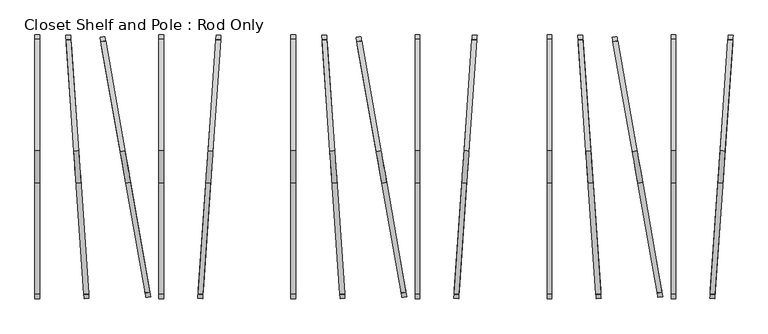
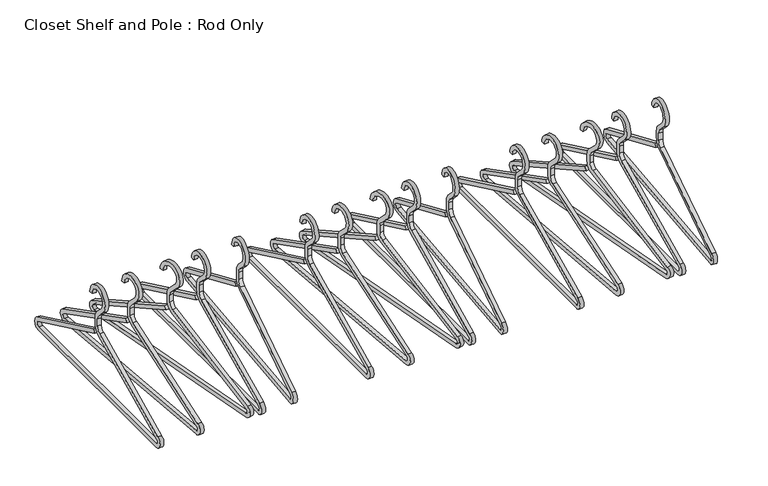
"""IFC4 building model written with IfcOpenShell, lengths in millimetres: furniture geometry, Closet Shelf and Pole : Rod Only."""

from ifc_helpers import new_model, si_unit, point, frame, frame_2d, origin, place, context, project, spatial, polyline, circle_curve, trimmed, segment, composite_curve, outline, extrude, source, transform, mapped, element, save


def closet_shelf_and_pole_rod_only_25dd0cd0(model_context):
    return source(origin(), model_context, "Body", "SweptSolid", [
        extrude(outline(composite_curve([segment(polyline([(0.0, -7.62), (0.0, 0.0), (209.55, 0.0)]), True, "CONTINUOUS"), segment(trimmed(circle_curve(frame_2d((209.55, -12.7)), 12.7), [point((209.55, 0.0))], [point((215.0168758, -24.1631265))], False, "CARTESIAN"), True, "CONTINUOUS"), segment(polyline([(215.0168758, -24.1631265), (-140.3400452, -193.6362767)]), True, "CONTINUOUS"), segment(trimmed(circle_curve(frame_2d((-145.806921, -182.1731502)), 12.7), [point((-140.3400452, -193.6362767))], [point((-155.6758169, -174.179722))], False, "CARTESIAN"), True, "CONTINUOUS"), segment(polyline([(-155.6758169, -174.179722), (-19.6406824, -6.2271797)]), True, "CONTINUOUS"), segment(trimmed(circle_curve(frame_2d((-29.5095783, 1.7662485)), 12.7), [point((-19.6406824, -6.2271797))], [point((-18.0464519, 7.2331242))], True, "CARTESIAN"), True, "CONTINUOUS"), segment(polyline([(-18.0464519, 7.2331242), (-24.2041701, 20.1448321)]), True, "CONTINUOUS"), segment(trimmed(circle_curve(frame_2d((-35.6672966, 14.6779563)), 12.7), [point((-24.2041701, 20.1448321))], [point((-31.4273071, 26.6492757))], True, "CARTESIAN"), True, "CONTINUOUS"), segment(polyline([(-31.4273071, 26.6492757), (-50.4112631, 33.3729936)]), True, "CONTINUOUS"), segment(trimmed(circle_curve(frame_2d((-41.9312841, 57.3156324)), 25.4), [point((-50.4112631, 33.3729936))], [point((-19.005031, 68.2493841))], False, "CARTESIAN"), True, "CONTINUOUS"), segment(polyline([(-19.005031, 68.2493841), (-25.882907, 64.9692586)]), True, "CONTINUOUS"), segment(trimmed(circle_curve(frame_2d((-41.9312841, 57.3156324)), 17.78), [point((-25.882907, 64.9692586))], [point((-47.8672693, 40.5557852))], True, "CARTESIAN"), True, "CONTINUOUS"), segment(polyline([(-47.8672693, 40.5557852), (-28.8833134, 33.8320674)]), True, "CONTINUOUS"), segment(trimmed(circle_curve(frame_2d((-35.6672966, 14.6779563)), 20.32), [point((-28.8833134, 33.8320674))], [point((-17.3262942, 23.4249576))], False, "CARTESIAN"), True, "CONTINUOUS"), segment(polyline([(-17.3262942, 23.4249576), (-11.1685759, 10.5132497)]), True, "CONTINUOUS"), segment(trimmed(circle_curve(frame_2d((-29.5095783, 1.7662485)), 20.32), [point((-11.1685759, 10.5132497))], [point((-13.7193448, -11.0232366))], False, "CARTESIAN"), True, "CONTINUOUS"), segment(polyline([(-13.7193448, -11.0232366), (-149.7544794, -178.9757789)]), True, "CONTINUOUS"), segment(trimmed(circle_curve(frame_2d((-145.806921, -182.1731502)), 5.08), [point((-149.7544794, -178.9757789))], [point((-143.6201707, -186.7584008))], True, "CARTESIAN"), True, "CONTINUOUS"), segment(polyline([(-143.6201707, -186.7584008), (211.7367503, -17.2852506)]), True, "CONTINUOUS"), segment(trimmed(circle_curve(frame_2d((209.55, -12.7)), 5.08), [point((211.7367503, -17.2852506))], [point((209.55, -7.62))], True, "CARTESIAN"), True, "CONTINUOUS"), segment(polyline([(209.55, -7.62), (0.0, -7.62)]), True, "CONTINUOUS")], self_intersect=False)), frame((1822.7600176, -241.686473, 1314.5165774), z_axis=(0.9848077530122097, 0.1736481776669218, 0.0), x_axis=(-0.15673630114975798, 0.8888957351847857, -0.4304626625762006)), (0.0, 0.0, 1.0), 7.62),
        extrude(outline(composite_curve([segment(polyline([(0.0, -7.62), (0.0, 0.0), (209.55, 0.0)]), True, "CONTINUOUS"), segment(trimmed(circle_curve(frame_2d((209.55, 5.08)), 5.08), [point((209.55, 0.0))], [point((211.7367503, 9.6652506))], True, "CARTESIAN"), True, "CONTINUOUS"), segment(polyline([(211.7367503, 9.6652506), (-143.6201708, 179.1384008)]), True, "CONTINUOUS"), segment(trimmed(circle_curve(frame_2d((-145.8069211, 174.5531502)), 5.08), [point((-143.6201708, 179.1384008))], [point((-149.7544794, 171.355779))], True, "CARTESIAN"), True, "CONTINUOUS"), segment(polyline([(-149.7544794, 171.355779), (-13.7193449, 3.4032366)]), True, "CONTINUOUS"), segment(trimmed(circle_curve(frame_2d((-29.5095783, -9.3862485)), 20.32), [point((-13.7193449, 3.4032366))], [point((-11.1685759, -18.1332498))], False, "CARTESIAN"), True, "CONTINUOUS"), segment(polyline([(-11.1685759, -18.1332498), (-17.3262942, -31.0449576)]), True, "CONTINUOUS"), segment(trimmed(circle_curve(frame_2d((-35.6672966, -22.2979563)), 20.32), [point((-17.3262942, -31.0449576))], [point((-28.8833133, -41.4520675))], False, "CARTESIAN"), True, "CONTINUOUS"), segment(polyline([(-28.8833133, -41.4520675), (-47.8672693, -48.1757852)]), True, "CONTINUOUS"), segment(trimmed(circle_curve(frame_2d((-41.931284, -64.9356325)), 17.78), [point((-47.8672693, -48.1757852))], [point((-25.882907, -72.5892586))], True, "CARTESIAN"), True, "CONTINUOUS"), segment(polyline([(-25.882907, -72.5892586), (-19.0050311, -75.8693841)]), True, "CONTINUOUS"), segment(trimmed(circle_curve(frame_2d((-41.931284, -64.9356325)), 25.4), [point((-19.0050311, -75.8693841))], [point((-50.4112631, -40.9929936))], False, "CARTESIAN"), True, "CONTINUOUS"), segment(polyline([(-50.4112631, -40.9929936), (-31.427307, -34.2692758)]), True, "CONTINUOUS"), segment(trimmed(circle_curve(frame_2d((-35.6672966, -22.2979563)), 12.7), [point((-31.427307, -34.2692758))], [point((-24.2041701, -27.7648321))], True, "CARTESIAN"), True, "CONTINUOUS"), segment(polyline([(-24.2041701, -27.7648321), (-18.0464518, -14.8531243)]), True, "CONTINUOUS"), segment(trimmed(circle_curve(frame_2d((-29.5095783, -9.3862485)), 12.7), [point((-18.0464518, -14.8531243))], [point((-19.6406824, -1.3928203))], True, "CARTESIAN"), True, "CONTINUOUS"), segment(polyline([(-19.6406824, -1.3928203), (-155.6758169, 166.559722)]), True, "CONTINUOUS"), segment(trimmed(circle_curve(frame_2d((-145.8069211, 174.5531502)), 12.7), [point((-155.6758169, 166.559722))], [point((-140.3400453, 186.0162767))], False, "CARTESIAN"), True, "CONTINUOUS"), segment(polyline([(-140.3400453, 186.0162767), (215.0168758, 16.5431265)]), True, "CONTINUOUS"), segment(trimmed(circle_curve(frame_2d((209.55, 5.08)), 12.7), [point((215.0168758, 16.5431265))], [point((209.55, -7.6200001))], False, "CARTESIAN"), True, "CONTINUOUS"), segment(polyline([(209.55, -7.6200001), (0.0, -7.62)]), True, "CONTINUOUS")], self_intersect=False)), frame((1966.6409707, -244.394713, 1307.6387015), z_axis=(-0.9975640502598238, 0.0697564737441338, 0.0), x_axis=(0.06296277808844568, 0.900409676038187, -0.4304626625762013)), (0.0, 0.0, 1.0), 7.62),
        extrude(outline(composite_curve([segment(polyline([(0.0, -7.62), (0.0, 0.0), (209.55, 0.0)]), True, "CONTINUOUS"), segment(trimmed(circle_curve(frame_2d((209.55, -12.7)), 12.7), [point((209.55, 0.0))], [point((215.0168758, -24.1631265))], False, "CARTESIAN"), True, "CONTINUOUS"), segment(polyline([(215.0168758, -24.1631265), (-140.3400453, -193.6362767)]), True, "CONTINUOUS"), segment(trimmed(circle_curve(frame_2d((-145.8069211, -182.1731502)), 12.7), [point((-140.3400453, -193.6362767))], [point((-155.6758169, -174.179722))], False, "CARTESIAN"), True, "CONTINUOUS"), segment(polyline([(-155.6758169, -174.179722), (-19.6406824, -6.2271797)]), True, "CONTINUOUS"), segment(trimmed(circle_curve(frame_2d((-29.5095783, 1.7662484)), 12.7), [point((-19.6406824, -6.2271797))], [point((-18.0464519, 7.2331242))], True, "CARTESIAN"), True, "CONTINUOUS"), segment(polyline([(-18.0464519, 7.2331242), (-24.2041701, 20.1448321)]), True, "CONTINUOUS"), segment(trimmed(circle_curve(frame_2d((-35.6672966, 14.6779563)), 12.7), [point((-24.2041701, 20.1448321))], [point((-31.427307, 26.6492757))], True, "CARTESIAN"), True, "CONTINUOUS"), segment(polyline([(-31.427307, 26.6492757), (-50.4112631, 33.3729936)]), True, "CONTINUOUS"), segment(trimmed(circle_curve(frame_2d((-41.9312841, 57.3156324)), 25.4), [point((-50.4112631, 33.3729936))], [point((-19.0050311, 68.2493841))], False, "CARTESIAN"), True, "CONTINUOUS"), segment(polyline([(-19.0050311, 68.2493841), (-25.882907, 64.9692586)]), True, "CONTINUOUS"), segment(trimmed(circle_curve(frame_2d((-41.9312841, 57.3156324)), 17.78), [point((-25.882907, 64.9692586))], [point((-47.8672693, 40.5557852))], True, "CARTESIAN"), True, "CONTINUOUS"), segment(polyline([(-47.8672693, 40.5557852), (-28.8833133, 33.8320674)]), True, "CONTINUOUS"), segment(trimmed(circle_curve(frame_2d((-35.6672966, 14.6779563)), 20.32), [point((-28.8833133, 33.8320674))], [point((-17.3262942, 23.4249576))], False, "CARTESIAN"), True, "CONTINUOUS"), segment(polyline([(-17.3262942, 23.4249576), (-11.1685759, 10.5132497)]), True, "CONTINUOUS"), segment(trimmed(circle_curve(frame_2d((-29.5095783, 1.7662484)), 20.32), [point((-11.1685759, 10.5132497))], [point((-13.7193449, -11.0232367))], False, "CARTESIAN"), True, "CONTINUOUS"), segment(polyline([(-13.7193449, -11.0232367), (-149.7544795, -178.975779)]), True, "CONTINUOUS"), segment(trimmed(circle_curve(frame_2d((-145.8069211, -182.1731502)), 5.08), [point((-149.7544795, -178.975779))], [point((-143.6201708, -186.7584008))], True, "CARTESIAN"), True, "CONTINUOUS"), segment(polyline([(-143.6201708, -186.7584008), (211.7367503, -17.2852506)]), True, "CONTINUOUS"), segment(trimmed(circle_curve(frame_2d((209.55, -12.7)), 5.08), [point((211.7367503, -17.2852506))], [point((209.5499999, -7.62))], True, "CARTESIAN"), True, "CONTINUOUS"), segment(polyline([(209.5499999, -7.62), (0.0, -7.62)]), True, "CONTINUOUS")], self_intersect=False)), frame((1747.8802193, -241.1225777, 1314.5165774), z_axis=(0.997564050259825, 0.06975647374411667, 0.0), x_axis=(-0.06296277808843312, 0.900409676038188, -0.4304626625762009)), (0.0, 0.0, 1.0), 7.62),
        extrude(outline(composite_curve([segment(polyline([(-244.1048367, 1307.6387015), (-240.8247112, 1314.5165774), (-51.6831242, 1224.3131265)]), True, "CONTINUOUS"), segment(trimmed(circle_curve(frame_2d((-57.15, 1212.85)), 12.7), [point((-51.6831242, 1224.3131265))], [point((-57.15, 1200.15))], False, "CARTESIAN"), True, "CONTINUOUS"), segment(polyline([(-57.15, 1200.15), (-450.85, 1200.15)]), True, "CONTINUOUS"), segment(trimmed(circle_curve(frame_2d((-450.85, 1212.85)), 12.7), [point((-450.85, 1200.15))], [point((-456.3168758, 1224.3131265))], False, "CARTESIAN"), True, "CONTINUOUS"), segment(polyline([(-456.3168758, 1224.3131265), (-261.2331242, 1317.3504532)]), True, "CONTINUOUS"), segment(trimmed(circle_curve(frame_2d((-266.7, 1328.8135797)), 12.7), [point((-261.2331242, 1317.3504532))], [point((-254.0, 1328.8135797))], True, "CARTESIAN"), True, "CONTINUOUS"), segment(polyline([(-254.0, 1328.8135797), (-254.0, 1343.1184633)]), True, "CONTINUOUS"), segment(trimmed(circle_curve(frame_2d((-266.7, 1343.1184633)), 12.7), [point((-254.0, 1343.1184633))], [point((-257.7197439, 1352.0987194))], True, "CARTESIAN"), True, "CONTINUOUS"), segment(polyline([(-257.7197439, 1352.0987194), (-271.9605122, 1366.3394878)]), True, "CONTINUOUS"), segment(trimmed(circle_curve(frame_2d((-254.0, 1384.3)), 25.4), [point((-271.9605122, 1366.3394878))], [point((-228.6, 1384.3))], False, "CARTESIAN"), True, "CONTINUOUS"), segment(polyline([(-228.6, 1384.3), (-236.22, 1384.3)]), True, "CONTINUOUS"), segment(trimmed(circle_curve(frame_2d((-254.0, 1384.3)), 17.78), [point((-236.22, 1384.3))], [point((-266.5723586, 1371.7276414))], True, "CARTESIAN"), True, "CONTINUOUS"), segment(polyline([(-266.5723586, 1371.7276414), (-252.3315902, 1357.4868731)]), True, "CONTINUOUS"), segment(trimmed(circle_curve(frame_2d((-266.7, 1343.1184633)), 20.32), [point((-252.3315902, 1357.4868731))], [point((-246.38, 1343.1184633))], False, "CARTESIAN"), True, "CONTINUOUS"), segment(polyline([(-246.38, 1343.1184633), (-246.38, 1328.8135797)]), True, "CONTINUOUS"), segment(trimmed(circle_curve(frame_2d((-266.7, 1328.8135797)), 20.32), [point((-246.38, 1328.8135797))], [point((-257.9529987, 1310.4725773))], False, "CARTESIAN"), True, "CONTINUOUS"), segment(polyline([(-257.9529987, 1310.4725773), (-453.0367503, 1217.4352506)]), True, "CONTINUOUS"), segment(trimmed(circle_curve(frame_2d((-450.85, 1212.85)), 5.08), [point((-453.0367503, 1217.4352506))], [point((-450.85, 1207.77))], True, "CARTESIAN"), True, "CONTINUOUS"), segment(polyline([(-450.85, 1207.77), (-57.15, 1207.77)]), True, "CONTINUOUS"), segment(trimmed(circle_curve(frame_2d((-57.15, 1212.85)), 5.08), [point((-57.15, 1207.77))], [point((-54.9632497, 1217.4352506))], True, "CARTESIAN"), True, "CONTINUOUS"), segment(polyline([(-54.9632497, 1217.4352506), (-244.1048367, 1307.6387015)]), True, "CONTINUOUS")], self_intersect=False)), frame((1882.14, 0.0, 0.0), z_axis=(1.0, 0.0, 0.0), x_axis=(0.0, 1.0, 0.0)), (0.0, 0.0, 1.0), 7.62),
        extrude(outline(composite_curve([segment(polyline([(-244.1048367, 1307.6387015), (-240.8247112, 1314.5165774), (-51.6831242, 1224.3131265)]), True, "CONTINUOUS"), segment(trimmed(circle_curve(frame_2d((-57.15, 1212.85)), 12.7), [point((-51.6831242, 1224.3131265))], [point((-57.15, 1200.15))], False, "CARTESIAN"), True, "CONTINUOUS"), segment(polyline([(-57.15, 1200.15), (-450.85, 1200.15)]), True, "CONTINUOUS"), segment(trimmed(circle_curve(frame_2d((-450.85, 1212.85)), 12.7), [point((-450.85, 1200.15))], [point((-456.3168758, 1224.3131265))], False, "CARTESIAN"), True, "CONTINUOUS"), segment(polyline([(-456.3168758, 1224.3131265), (-261.2331242, 1317.3504532)]), True, "CONTINUOUS"), segment(trimmed(circle_curve(frame_2d((-266.7, 1328.8135797)), 12.7), [point((-261.2331242, 1317.3504532))], [point((-254.0, 1328.8135797))], True, "CARTESIAN"), True, "CONTINUOUS"), segment(polyline([(-254.0, 1328.8135797), (-254.0, 1343.1184633)]), True, "CONTINUOUS"), segment(trimmed(circle_curve(frame_2d((-266.7, 1343.1184633)), 12.7), [point((-254.0, 1343.1184633))], [point((-257.7197439, 1352.0987194))], True, "CARTESIAN"), True, "CONTINUOUS"), segment(polyline([(-257.7197439, 1352.0987194), (-271.9605122, 1366.3394878)]), True, "CONTINUOUS"), segment(trimmed(circle_curve(frame_2d((-254.0, 1384.3)), 25.4), [point((-271.9605122, 1366.3394878))], [point((-228.6, 1384.3))], False, "CARTESIAN"), True, "CONTINUOUS"), segment(polyline([(-228.6, 1384.3), (-236.22, 1384.3)]), True, "CONTINUOUS"), segment(trimmed(circle_curve(frame_2d((-254.0, 1384.3)), 17.78), [point((-236.22, 1384.3))], [point((-266.5723586, 1371.7276414))], True, "CARTESIAN"), True, "CONTINUOUS"), segment(polyline([(-266.5723586, 1371.7276414), (-252.3315902, 1357.4868731)]), True, "CONTINUOUS"), segment(trimmed(circle_curve(frame_2d((-266.7, 1343.1184633)), 20.32), [point((-252.3315902, 1357.4868731))], [point((-246.38, 1343.1184633))], False, "CARTESIAN"), True, "CONTINUOUS"), segment(polyline([(-246.38, 1343.1184633), (-246.38, 1328.8135797)]), True, "CONTINUOUS"), segment(trimmed(circle_curve(frame_2d((-266.7, 1328.8135797)), 20.32), [point((-246.38, 1328.8135797))], [point((-257.9529987, 1310.4725773))], False, "CARTESIAN"), True, "CONTINUOUS"), segment(polyline([(-257.9529987, 1310.4725773), (-453.0367503, 1217.4352506)]), True, "CONTINUOUS"), segment(trimmed(circle_curve(frame_2d((-450.85, 1212.85)), 5.08), [point((-453.0367503, 1217.4352506))], [point((-450.85, 1207.77))], True, "CARTESIAN"), True, "CONTINUOUS"), segment(polyline([(-450.85, 1207.77), (-57.15, 1207.77)]), True, "CONTINUOUS"), segment(trimmed(circle_curve(frame_2d((-57.15, 1212.85)), 5.08), [point((-57.15, 1207.77))], [point((-54.9632497, 1217.4352506))], True, "CARTESIAN"), True, "CONTINUOUS"), segment(polyline([(-54.9632497, 1217.4352506), (-244.1048367, 1307.6387015)]), True, "CONTINUOUS")], self_intersect=False)), frame((1685.29, 0.0, 0.0), z_axis=(1.0, 0.0, 0.0), x_axis=(0.0, 1.0, 0.0)), (0.0, 0.0, 1.0), 7.62),
        extrude(outline(composite_curve([segment(polyline([(0.0, -7.62), (0.0, 0.0), (209.55, 0.0)]), True, "CONTINUOUS"), segment(trimmed(circle_curve(frame_2d((209.55, -12.7)), 12.7), [point((209.55, 0.0))], [point((215.0168758, -24.1631265))], False, "CARTESIAN"), True, "CONTINUOUS"), segment(polyline([(215.0168758, -24.1631265), (-140.3400452, -193.6362767)]), True, "CONTINUOUS"), segment(trimmed(circle_curve(frame_2d((-145.806921, -182.1731502)), 12.7), [point((-140.3400452, -193.6362767))], [point((-155.6758169, -174.179722))], False, "CARTESIAN"), True, "CONTINUOUS"), segment(polyline([(-155.6758169, -174.179722), (-19.6406824, -6.2271797)]), True, "CONTINUOUS"), segment(trimmed(circle_curve(frame_2d((-29.5095783, 1.7662485)), 12.7), [point((-19.6406824, -6.2271797))], [point((-18.0464519, 7.2331242))], True, "CARTESIAN"), True, "CONTINUOUS"), segment(polyline([(-18.0464519, 7.2331242), (-24.2041701, 20.1448321)]), True, "CONTINUOUS"), segment(trimmed(circle_curve(frame_2d((-35.6672966, 14.6779563)), 12.7), [point((-24.2041701, 20.1448321))], [point((-31.4273071, 26.6492757))], True, "CARTESIAN"), True, "CONTINUOUS"), segment(polyline([(-31.4273071, 26.6492757), (-50.4112631, 33.3729936)]), True, "CONTINUOUS"), segment(trimmed(circle_curve(frame_2d((-41.9312841, 57.3156324)), 25.4), [point((-50.4112631, 33.3729936))], [point((-19.005031, 68.2493841))], False, "CARTESIAN"), True, "CONTINUOUS"), segment(polyline([(-19.005031, 68.2493841), (-25.882907, 64.9692586)]), True, "CONTINUOUS"), segment(trimmed(circle_curve(frame_2d((-41.9312841, 57.3156324)), 17.78), [point((-25.882907, 64.9692586))], [point((-47.8672693, 40.5557852))], True, "CARTESIAN"), True, "CONTINUOUS"), segment(polyline([(-47.8672693, 40.5557852), (-28.8833134, 33.8320674)]), True, "CONTINUOUS"), segment(trimmed(circle_curve(frame_2d((-35.6672966, 14.6779563)), 20.32), [point((-28.8833134, 33.8320674))], [point((-17.3262942, 23.4249576))], False, "CARTESIAN"), True, "CONTINUOUS"), segment(polyline([(-17.3262942, 23.4249576), (-11.1685759, 10.5132497)]), True, "CONTINUOUS"), segment(trimmed(circle_curve(frame_2d((-29.5095783, 1.7662485)), 20.32), [point((-11.1685759, 10.5132497))], [point((-13.7193448, -11.0232366))], False, "CARTESIAN"), True, "CONTINUOUS"), segment(polyline([(-13.7193448, -11.0232366), (-149.7544794, -178.9757789)]), True, "CONTINUOUS"), segment(trimmed(circle_curve(frame_2d((-145.806921, -182.1731502)), 5.08), [point((-149.7544794, -178.9757789))], [point((-143.6201707, -186.7584008))], True, "CARTESIAN"), True, "CONTINUOUS"), segment(polyline([(-143.6201707, -186.7584008), (211.7367503, -17.2852506)]), True, "CONTINUOUS"), segment(trimmed(circle_curve(frame_2d((209.55, -12.7)), 5.08), [point((211.7367503, -17.2852506))], [point((209.55, -7.62))], True, "CARTESIAN"), True, "CONTINUOUS"), segment(polyline([(209.55, -7.62), (0.0, -7.62)]), True, "CONTINUOUS")], self_intersect=False)), frame((1416.3600176, -241.686473, 1314.5165774), z_axis=(0.9848077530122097, 0.1736481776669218, 0.0), x_axis=(-0.15673630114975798, 0.8888957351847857, -0.4304626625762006)), (0.0, 0.0, 1.0), 7.62),
        extrude(outline(composite_curve([segment(polyline([(0.0, -7.62), (0.0, 0.0), (209.55, 0.0)]), True, "CONTINUOUS"), segment(trimmed(circle_curve(frame_2d((209.55, 5.08)), 5.08), [point((209.55, 0.0))], [point((211.7367503, 9.6652506))], True, "CARTESIAN"), True, "CONTINUOUS"), segment(polyline([(211.7367503, 9.6652506), (-143.6201708, 179.1384008)]), True, "CONTINUOUS"), segment(trimmed(circle_curve(frame_2d((-145.8069211, 174.5531502)), 5.08), [point((-143.6201708, 179.1384008))], [point((-149.7544794, 171.355779))], True, "CARTESIAN"), True, "CONTINUOUS"), segment(polyline([(-149.7544794, 171.355779), (-13.7193449, 3.4032366)]), True, "CONTINUOUS"), segment(trimmed(circle_curve(frame_2d((-29.5095783, -9.3862485)), 20.32), [point((-13.7193449, 3.4032366))], [point((-11.1685759, -18.1332498))], False, "CARTESIAN"), True, "CONTINUOUS"), segment(polyline([(-11.1685759, -18.1332498), (-17.3262942, -31.0449576)]), True, "CONTINUOUS"), segment(trimmed(circle_curve(frame_2d((-35.6672966, -22.2979563)), 20.32), [point((-17.3262942, -31.0449576))], [point((-28.8833133, -41.4520675))], False, "CARTESIAN"), True, "CONTINUOUS"), segment(polyline([(-28.8833133, -41.4520675), (-47.8672693, -48.1757852)]), True, "CONTINUOUS"), segment(trimmed(circle_curve(frame_2d((-41.931284, -64.9356325)), 17.78), [point((-47.8672693, -48.1757852))], [point((-25.882907, -72.5892586))], True, "CARTESIAN"), True, "CONTINUOUS"), segment(polyline([(-25.882907, -72.5892586), (-19.0050311, -75.8693841)]), True, "CONTINUOUS"), segment(trimmed(circle_curve(frame_2d((-41.931284, -64.9356325)), 25.4), [point((-19.0050311, -75.8693841))], [point((-50.4112631, -40.9929936))], False, "CARTESIAN"), True, "CONTINUOUS"), segment(polyline([(-50.4112631, -40.9929936), (-31.427307, -34.2692758)]), True, "CONTINUOUS"), segment(trimmed(circle_curve(frame_2d((-35.6672966, -22.2979563)), 12.7), [point((-31.427307, -34.2692758))], [point((-24.2041701, -27.7648321))], True, "CARTESIAN"), True, "CONTINUOUS"), segment(polyline([(-24.2041701, -27.7648321), (-18.0464518, -14.8531243)]), True, "CONTINUOUS"), segment(trimmed(circle_curve(frame_2d((-29.5095783, -9.3862485)), 12.7), [point((-18.0464518, -14.8531243))], [point((-19.6406824, -1.3928203))], True, "CARTESIAN"), True, "CONTINUOUS"), segment(polyline([(-19.6406824, -1.3928203), (-155.6758169, 166.559722)]), True, "CONTINUOUS"), segment(trimmed(circle_curve(frame_2d((-145.8069211, 174.5531502)), 12.7), [point((-155.6758169, 166.559722))], [point((-140.3400453, 186.0162767))], False, "CARTESIAN"), True, "CONTINUOUS"), segment(polyline([(-140.3400453, 186.0162767), (215.0168758, 16.5431265)]), True, "CONTINUOUS"), segment(trimmed(circle_curve(frame_2d((209.55, 5.08)), 12.7), [point((215.0168758, 16.5431265))], [point((209.55, -7.6200001))], False, "CARTESIAN"), True, "CONTINUOUS"), segment(polyline([(209.55, -7.6200001), (0.0, -7.62)]), True, "CONTINUOUS")], self_intersect=False)), frame((1560.2409707, -244.394713, 1307.6387015), z_axis=(-0.9975640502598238, 0.0697564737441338, 0.0), x_axis=(0.06296277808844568, 0.900409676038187, -0.4304626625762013)), (0.0, 0.0, 1.0), 7.62),
        extrude(outline(composite_curve([segment(polyline([(0.0, -7.62), (0.0, 0.0), (209.55, 0.0)]), True, "CONTINUOUS"), segment(trimmed(circle_curve(frame_2d((209.55, -12.7)), 12.7), [point((209.55, 0.0))], [point((215.0168758, -24.1631265))], False, "CARTESIAN"), True, "CONTINUOUS"), segment(polyline([(215.0168758, -24.1631265), (-140.3400453, -193.6362767)]), True, "CONTINUOUS"), segment(trimmed(circle_curve(frame_2d((-145.8069211, -182.1731502)), 12.7), [point((-140.3400453, -193.6362767))], [point((-155.6758169, -174.179722))], False, "CARTESIAN"), True, "CONTINUOUS"), segment(polyline([(-155.6758169, -174.179722), (-19.6406824, -6.2271797)]), True, "CONTINUOUS"), segment(trimmed(circle_curve(frame_2d((-29.5095783, 1.7662484)), 12.7), [point((-19.6406824, -6.2271797))], [point((-18.0464519, 7.2331242))], True, "CARTESIAN"), True, "CONTINUOUS"), segment(polyline([(-18.0464519, 7.2331242), (-24.2041701, 20.1448321)]), True, "CONTINUOUS"), segment(trimmed(circle_curve(frame_2d((-35.6672966, 14.6779563)), 12.7), [point((-24.2041701, 20.1448321))], [point((-31.427307, 26.6492757))], True, "CARTESIAN"), True, "CONTINUOUS"), segment(polyline([(-31.427307, 26.6492757), (-50.4112631, 33.3729936)]), True, "CONTINUOUS"), segment(trimmed(circle_curve(frame_2d((-41.9312841, 57.3156324)), 25.4), [point((-50.4112631, 33.3729936))], [point((-19.0050311, 68.2493841))], False, "CARTESIAN"), True, "CONTINUOUS"), segment(polyline([(-19.0050311, 68.2493841), (-25.882907, 64.9692586)]), True, "CONTINUOUS"), segment(trimmed(circle_curve(frame_2d((-41.9312841, 57.3156324)), 17.78), [point((-25.882907, 64.9692586))], [point((-47.8672693, 40.5557852))], True, "CARTESIAN"), True, "CONTINUOUS"), segment(polyline([(-47.8672693, 40.5557852), (-28.8833133, 33.8320674)]), True, "CONTINUOUS"), segment(trimmed(circle_curve(frame_2d((-35.6672966, 14.6779563)), 20.32), [point((-28.8833133, 33.8320674))], [point((-17.3262942, 23.4249576))], False, "CARTESIAN"), True, "CONTINUOUS"), segment(polyline([(-17.3262942, 23.4249576), (-11.1685759, 10.5132497)]), True, "CONTINUOUS"), segment(trimmed(circle_curve(frame_2d((-29.5095783, 1.7662484)), 20.32), [point((-11.1685759, 10.5132497))], [point((-13.7193449, -11.0232367))], False, "CARTESIAN"), True, "CONTINUOUS"), segment(polyline([(-13.7193449, -11.0232367), (-149.7544795, -178.975779)]), True, "CONTINUOUS"), segment(trimmed(circle_curve(frame_2d((-145.8069211, -182.1731502)), 5.08), [point((-149.7544795, -178.975779))], [point((-143.6201708, -186.7584008))], True, "CARTESIAN"), True, "CONTINUOUS"), segment(polyline([(-143.6201708, -186.7584008), (211.7367503, -17.2852506)]), True, "CONTINUOUS"), segment(trimmed(circle_curve(frame_2d((209.55, -12.7)), 5.08), [point((211.7367503, -17.2852506))], [point((209.5499999, -7.62))], True, "CARTESIAN"), True, "CONTINUOUS"), segment(polyline([(209.5499999, -7.62), (0.0, -7.62)]), True, "CONTINUOUS")], self_intersect=False)), frame((1341.4802193, -241.1225777, 1314.5165774), z_axis=(0.997564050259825, 0.06975647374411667, 0.0), x_axis=(-0.06296277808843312, 0.900409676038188, -0.4304626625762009)), (0.0, 0.0, 1.0), 7.62),
        extrude(outline(composite_curve([segment(polyline([(-244.1048367, 1307.6387015), (-240.8247112, 1314.5165774), (-51.6831242, 1224.3131265)]), True, "CONTINUOUS"), segment(trimmed(circle_curve(frame_2d((-57.15, 1212.85)), 12.7), [point((-51.6831242, 1224.3131265))], [point((-57.15, 1200.15))], False, "CARTESIAN"), True, "CONTINUOUS"), segment(polyline([(-57.15, 1200.15), (-450.85, 1200.15)]), True, "CONTINUOUS"), segment(trimmed(circle_curve(frame_2d((-450.85, 1212.85)), 12.7), [point((-450.85, 1200.15))], [point((-456.3168758, 1224.3131265))], False, "CARTESIAN"), True, "CONTINUOUS"), segment(polyline([(-456.3168758, 1224.3131265), (-261.2331242, 1317.3504532)]), True, "CONTINUOUS"), segment(trimmed(circle_curve(frame_2d((-266.7, 1328.8135797)), 12.7), [point((-261.2331242, 1317.3504532))], [point((-254.0, 1328.8135797))], True, "CARTESIAN"), True, "CONTINUOUS"), segment(polyline([(-254.0, 1328.8135797), (-254.0, 1343.1184633)]), True, "CONTINUOUS"), segment(trimmed(circle_curve(frame_2d((-266.7, 1343.1184633)), 12.7), [point((-254.0, 1343.1184633))], [point((-257.7197439, 1352.0987194))], True, "CARTESIAN"), True, "CONTINUOUS"), segment(polyline([(-257.7197439, 1352.0987194), (-271.9605122, 1366.3394878)]), True, "CONTINUOUS"), segment(trimmed(circle_curve(frame_2d((-254.0, 1384.3)), 25.4), [point((-271.9605122, 1366.3394878))], [point((-228.6, 1384.3))], False, "CARTESIAN"), True, "CONTINUOUS"), segment(polyline([(-228.6, 1384.3), (-236.22, 1384.3)]), True, "CONTINUOUS"), segment(trimmed(circle_curve(frame_2d((-254.0, 1384.3)), 17.78), [point((-236.22, 1384.3))], [point((-266.5723586, 1371.7276414))], True, "CARTESIAN"), True, "CONTINUOUS"), segment(polyline([(-266.5723586, 1371.7276414), (-252.3315902, 1357.4868731)]), True, "CONTINUOUS"), segment(trimmed(circle_curve(frame_2d((-266.7, 1343.1184633)), 20.32), [point((-252.3315902, 1357.4868731))], [point((-246.38, 1343.1184633))], False, "CARTESIAN"), True, "CONTINUOUS"), segment(polyline([(-246.38, 1343.1184633), (-246.38, 1328.8135797)]), True, "CONTINUOUS"), segment(trimmed(circle_curve(frame_2d((-266.7, 1328.8135797)), 20.32), [point((-246.38, 1328.8135797))], [point((-257.9529987, 1310.4725773))], False, "CARTESIAN"), True, "CONTINUOUS"), segment(polyline([(-257.9529987, 1310.4725773), (-453.0367503, 1217.4352506)]), True, "CONTINUOUS"), segment(trimmed(circle_curve(frame_2d((-450.85, 1212.85)), 5.08), [point((-453.0367503, 1217.4352506))], [point((-450.85, 1207.77))], True, "CARTESIAN"), True, "CONTINUOUS"), segment(polyline([(-450.85, 1207.77), (-57.15, 1207.77)]), True, "CONTINUOUS"), segment(trimmed(circle_curve(frame_2d((-57.15, 1212.85)), 5.08), [point((-57.15, 1207.77))], [point((-54.9632497, 1217.4352506))], True, "CARTESIAN"), True, "CONTINUOUS"), segment(polyline([(-54.9632497, 1217.4352506), (-244.1048367, 1307.6387015)]), True, "CONTINUOUS")], self_intersect=False)), frame((1475.74, 0.0, 0.0), z_axis=(1.0, 0.0, 0.0), x_axis=(0.0, 1.0, 0.0)), (0.0, 0.0, 1.0), 7.62),
        extrude(outline(composite_curve([segment(polyline([(-244.1048367, 1307.6387015), (-240.8247112, 1314.5165774), (-51.6831242, 1224.3131265)]), True, "CONTINUOUS"), segment(trimmed(circle_curve(frame_2d((-57.15, 1212.85)), 12.7), [point((-51.6831242, 1224.3131265))], [point((-57.15, 1200.15))], False, "CARTESIAN"), True, "CONTINUOUS"), segment(polyline([(-57.15, 1200.15), (-450.85, 1200.15)]), True, "CONTINUOUS"), segment(trimmed(circle_curve(frame_2d((-450.85, 1212.85)), 12.7), [point((-450.85, 1200.15))], [point((-456.3168758, 1224.3131265))], False, "CARTESIAN"), True, "CONTINUOUS"), segment(polyline([(-456.3168758, 1224.3131265), (-261.2331242, 1317.3504532)]), True, "CONTINUOUS"), segment(trimmed(circle_curve(frame_2d((-266.7, 1328.8135797)), 12.7), [point((-261.2331242, 1317.3504532))], [point((-254.0, 1328.8135797))], True, "CARTESIAN"), True, "CONTINUOUS"), segment(polyline([(-254.0, 1328.8135797), (-254.0, 1343.1184633)]), True, "CONTINUOUS"), segment(trimmed(circle_curve(frame_2d((-266.7, 1343.1184633)), 12.7), [point((-254.0, 1343.1184633))], [point((-257.7197439, 1352.0987194))], True, "CARTESIAN"), True, "CONTINUOUS"), segment(polyline([(-257.7197439, 1352.0987194), (-271.9605122, 1366.3394878)]), True, "CONTINUOUS"), segment(trimmed(circle_curve(frame_2d((-254.0, 1384.3)), 25.4), [point((-271.9605122, 1366.3394878))], [point((-228.6, 1384.3))], False, "CARTESIAN"), True, "CONTINUOUS"), segment(polyline([(-228.6, 1384.3), (-236.22, 1384.3)]), True, "CONTINUOUS"), segment(trimmed(circle_curve(frame_2d((-254.0, 1384.3)), 17.78), [point((-236.22, 1384.3))], [point((-266.5723586, 1371.7276414))], True, "CARTESIAN"), True, "CONTINUOUS"), segment(polyline([(-266.5723586, 1371.7276414), (-252.3315902, 1357.4868731)]), True, "CONTINUOUS"), segment(trimmed(circle_curve(frame_2d((-266.7, 1343.1184633)), 20.32), [point((-252.3315902, 1357.4868731))], [point((-246.38, 1343.1184633))], False, "CARTESIAN"), True, "CONTINUOUS"), segment(polyline([(-246.38, 1343.1184633), (-246.38, 1328.8135797)]), True, "CONTINUOUS"), segment(trimmed(circle_curve(frame_2d((-266.7, 1328.8135797)), 20.32), [point((-246.38, 1328.8135797))], [point((-257.9529987, 1310.4725773))], False, "CARTESIAN"), True, "CONTINUOUS"), segment(polyline([(-257.9529987, 1310.4725773), (-453.0367503, 1217.4352506)]), True, "CONTINUOUS"), segment(trimmed(circle_curve(frame_2d((-450.85, 1212.85)), 5.08), [point((-453.0367503, 1217.4352506))], [point((-450.85, 1207.77))], True, "CARTESIAN"), True, "CONTINUOUS"), segment(polyline([(-450.85, 1207.77), (-57.15, 1207.77)]), True, "CONTINUOUS"), segment(trimmed(circle_curve(frame_2d((-57.15, 1212.85)), 5.08), [point((-57.15, 1207.77))], [point((-54.9632497, 1217.4352506))], True, "CARTESIAN"), True, "CONTINUOUS"), segment(polyline([(-54.9632497, 1217.4352506), (-244.1048367, 1307.6387015)]), True, "CONTINUOUS")], self_intersect=False)), frame((1278.89, 0.0, 0.0), z_axis=(1.0, 0.0, 0.0), x_axis=(0.0, 1.0, 0.0)), (0.0, 0.0, 1.0), 7.62),
        extrude(outline(composite_curve([segment(polyline([(0.0, -7.62), (0.0, 0.0), (209.55, 0.0)]), True, "CONTINUOUS"), segment(trimmed(circle_curve(frame_2d((209.55, -12.7)), 12.7), [point((209.55, 0.0))], [point((215.0168758, -24.1631265))], False, "CARTESIAN"), True, "CONTINUOUS"), segment(polyline([(215.0168758, -24.1631265), (-140.3400452, -193.6362767)]), True, "CONTINUOUS"), segment(trimmed(circle_curve(frame_2d((-145.806921, -182.1731502)), 12.7), [point((-140.3400452, -193.6362767))], [point((-155.6758169, -174.179722))], False, "CARTESIAN"), True, "CONTINUOUS"), segment(polyline([(-155.6758169, -174.179722), (-19.6406824, -6.2271797)]), True, "CONTINUOUS"), segment(trimmed(circle_curve(frame_2d((-29.5095783, 1.7662485)), 12.7), [point((-19.6406824, -6.2271797))], [point((-18.0464519, 7.2331242))], True, "CARTESIAN"), True, "CONTINUOUS"), segment(polyline([(-18.0464519, 7.2331242), (-24.2041701, 20.1448321)]), True, "CONTINUOUS"), segment(trimmed(circle_curve(frame_2d((-35.6672966, 14.6779563)), 12.7), [point((-24.2041701, 20.1448321))], [point((-31.4273071, 26.6492757))], True, "CARTESIAN"), True, "CONTINUOUS"), segment(polyline([(-31.4273071, 26.6492757), (-50.4112631, 33.3729936)]), True, "CONTINUOUS"), segment(trimmed(circle_curve(frame_2d((-41.9312841, 57.3156324)), 25.4), [point((-50.4112631, 33.3729936))], [point((-19.005031, 68.2493841))], False, "CARTESIAN"), True, "CONTINUOUS"), segment(polyline([(-19.005031, 68.2493841), (-25.882907, 64.9692586)]), True, "CONTINUOUS"), segment(trimmed(circle_curve(frame_2d((-41.9312841, 57.3156324)), 17.78), [point((-25.882907, 64.9692586))], [point((-47.8672693, 40.5557852))], True, "CARTESIAN"), True, "CONTINUOUS"), segment(polyline([(-47.8672693, 40.5557852), (-28.8833134, 33.8320674)]), True, "CONTINUOUS"), segment(trimmed(circle_curve(frame_2d((-35.6672966, 14.6779563)), 20.32), [point((-28.8833134, 33.8320674))], [point((-17.3262942, 23.4249576))], False, "CARTESIAN"), True, "CONTINUOUS"), segment(polyline([(-17.3262942, 23.4249576), (-11.1685759, 10.5132497)]), True, "CONTINUOUS"), segment(trimmed(circle_curve(frame_2d((-29.5095783, 1.7662485)), 20.32), [point((-11.1685759, 10.5132497))], [point((-13.7193448, -11.0232366))], False, "CARTESIAN"), True, "CONTINUOUS"), segment(polyline([(-13.7193448, -11.0232366), (-149.7544794, -178.9757789)]), True, "CONTINUOUS"), segment(trimmed(circle_curve(frame_2d((-145.806921, -182.1731502)), 5.08), [point((-149.7544794, -178.9757789))], [point((-143.6201707, -186.7584008))], True, "CARTESIAN"), True, "CONTINUOUS"), segment(polyline([(-143.6201707, -186.7584008), (211.7367503, -17.2852506)]), True, "CONTINUOUS"), segment(trimmed(circle_curve(frame_2d((209.55, -12.7)), 5.08), [point((211.7367503, -17.2852506))], [point((209.55, -7.62))], True, "CARTESIAN"), True, "CONTINUOUS"), segment(polyline([(209.55, -7.62), (0.0, -7.62)]), True, "CONTINUOUS")], self_intersect=False)), frame((1009.9600176, -241.686473, 1314.5165774), z_axis=(0.9848077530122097, 0.1736481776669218, 0.0), x_axis=(-0.15673630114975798, 0.8888957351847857, -0.4304626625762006)), (0.0, 0.0, 1.0), 7.62),
        extrude(outline(composite_curve([segment(polyline([(0.0, -7.62), (0.0, 0.0), (209.55, 0.0)]), True, "CONTINUOUS"), segment(trimmed(circle_curve(frame_2d((209.55, 5.08)), 5.08), [point((209.55, 0.0))], [point((211.7367503, 9.6652506))], True, "CARTESIAN"), True, "CONTINUOUS"), segment(polyline([(211.7367503, 9.6652506), (-143.6201708, 179.1384008)]), True, "CONTINUOUS"), segment(trimmed(circle_curve(frame_2d((-145.8069211, 174.5531502)), 5.08), [point((-143.6201708, 179.1384008))], [point((-149.7544794, 171.355779))], True, "CARTESIAN"), True, "CONTINUOUS"), segment(polyline([(-149.7544794, 171.355779), (-13.7193449, 3.4032366)]), True, "CONTINUOUS"), segment(trimmed(circle_curve(frame_2d((-29.5095783, -9.3862485)), 20.32), [point((-13.7193449, 3.4032366))], [point((-11.1685759, -18.1332498))], False, "CARTESIAN"), True, "CONTINUOUS"), segment(polyline([(-11.1685759, -18.1332498), (-17.3262942, -31.0449576)]), True, "CONTINUOUS"), segment(trimmed(circle_curve(frame_2d((-35.6672966, -22.2979563)), 20.32), [point((-17.3262942, -31.0449576))], [point((-28.8833133, -41.4520675))], False, "CARTESIAN"), True, "CONTINUOUS"), segment(polyline([(-28.8833133, -41.4520675), (-47.8672693, -48.1757852)]), True, "CONTINUOUS"), segment(trimmed(circle_curve(frame_2d((-41.931284, -64.9356325)), 17.78), [point((-47.8672693, -48.1757852))], [point((-25.882907, -72.5892586))], True, "CARTESIAN"), True, "CONTINUOUS"), segment(polyline([(-25.882907, -72.5892586), (-19.0050311, -75.8693841)]), True, "CONTINUOUS"), segment(trimmed(circle_curve(frame_2d((-41.931284, -64.9356325)), 25.4), [point((-19.0050311, -75.8693841))], [point((-50.4112631, -40.9929936))], False, "CARTESIAN"), True, "CONTINUOUS"), segment(polyline([(-50.4112631, -40.9929936), (-31.427307, -34.2692758)]), True, "CONTINUOUS"), segment(trimmed(circle_curve(frame_2d((-35.6672966, -22.2979563)), 12.7), [point((-31.427307, -34.2692758))], [point((-24.2041701, -27.7648321))], True, "CARTESIAN"), True, "CONTINUOUS"), segment(polyline([(-24.2041701, -27.7648321), (-18.0464518, -14.8531243)]), True, "CONTINUOUS"), segment(trimmed(circle_curve(frame_2d((-29.5095783, -9.3862485)), 12.7), [point((-18.0464518, -14.8531243))], [point((-19.6406824, -1.3928203))], True, "CARTESIAN"), True, "CONTINUOUS"), segment(polyline([(-19.6406824, -1.3928203), (-155.6758169, 166.559722)]), True, "CONTINUOUS"), segment(trimmed(circle_curve(frame_2d((-145.8069211, 174.5531502)), 12.7), [point((-155.6758169, 166.559722))], [point((-140.3400453, 186.0162767))], False, "CARTESIAN"), True, "CONTINUOUS"), segment(polyline([(-140.3400453, 186.0162767), (215.0168758, 16.5431265)]), True, "CONTINUOUS"), segment(trimmed(circle_curve(frame_2d((209.55, 5.08)), 12.7), [point((215.0168758, 16.5431265))], [point((209.55, -7.6200001))], False, "CARTESIAN"), True, "CONTINUOUS"), segment(polyline([(209.55, -7.6200001), (0.0, -7.62)]), True, "CONTINUOUS")], self_intersect=False)), frame((1153.8409707, -244.394713, 1307.6387015), z_axis=(-0.9975640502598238, 0.0697564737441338, 0.0), x_axis=(0.06296277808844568, 0.900409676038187, -0.4304626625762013)), (0.0, 0.0, 1.0), 7.62),
        extrude(outline(composite_curve([segment(polyline([(0.0, -7.62), (0.0, 0.0), (209.55, 0.0)]), True, "CONTINUOUS"), segment(trimmed(circle_curve(frame_2d((209.55, -12.7)), 12.7), [point((209.55, 0.0))], [point((215.0168758, -24.1631265))], False, "CARTESIAN"), True, "CONTINUOUS"), segment(polyline([(215.0168758, -24.1631265), (-140.3400453, -193.6362767)]), True, "CONTINUOUS"), segment(trimmed(circle_curve(frame_2d((-145.8069211, -182.1731502)), 12.7), [point((-140.3400453, -193.6362767))], [point((-155.6758169, -174.179722))], False, "CARTESIAN"), True, "CONTINUOUS"), segment(polyline([(-155.6758169, -174.179722), (-19.6406824, -6.2271797)]), True, "CONTINUOUS"), segment(trimmed(circle_curve(frame_2d((-29.5095783, 1.7662484)), 12.7), [point((-19.6406824, -6.2271797))], [point((-18.0464519, 7.2331242))], True, "CARTESIAN"), True, "CONTINUOUS"), segment(polyline([(-18.0464519, 7.2331242), (-24.2041701, 20.1448321)]), True, "CONTINUOUS"), segment(trimmed(circle_curve(frame_2d((-35.6672966, 14.6779563)), 12.7), [point((-24.2041701, 20.1448321))], [point((-31.427307, 26.6492757))], True, "CARTESIAN"), True, "CONTINUOUS"), segment(polyline([(-31.427307, 26.6492757), (-50.4112631, 33.3729936)]), True, "CONTINUOUS"), segment(trimmed(circle_curve(frame_2d((-41.9312841, 57.3156324)), 25.4), [point((-50.4112631, 33.3729936))], [point((-19.0050311, 68.2493841))], False, "CARTESIAN"), True, "CONTINUOUS"), segment(polyline([(-19.0050311, 68.2493841), (-25.882907, 64.9692586)]), True, "CONTINUOUS"), segment(trimmed(circle_curve(frame_2d((-41.9312841, 57.3156324)), 17.78), [point((-25.882907, 64.9692586))], [point((-47.8672693, 40.5557852))], True, "CARTESIAN"), True, "CONTINUOUS"), segment(polyline([(-47.8672693, 40.5557852), (-28.8833133, 33.8320674)]), True, "CONTINUOUS"), segment(trimmed(circle_curve(frame_2d((-35.6672966, 14.6779563)), 20.32), [point((-28.8833133, 33.8320674))], [point((-17.3262942, 23.4249576))], False, "CARTESIAN"), True, "CONTINUOUS"), segment(polyline([(-17.3262942, 23.4249576), (-11.1685759, 10.5132497)]), True, "CONTINUOUS"), segment(trimmed(circle_curve(frame_2d((-29.5095783, 1.7662484)), 20.32), [point((-11.1685759, 10.5132497))], [point((-13.7193449, -11.0232367))], False, "CARTESIAN"), True, "CONTINUOUS"), segment(polyline([(-13.7193449, -11.0232367), (-149.7544795, -178.975779)]), True, "CONTINUOUS"), segment(trimmed(circle_curve(frame_2d((-145.8069211, -182.1731502)), 5.08), [point((-149.7544795, -178.975779))], [point((-143.6201708, -186.7584008))], True, "CARTESIAN"), True, "CONTINUOUS"), segment(polyline([(-143.6201708, -186.7584008), (211.7367503, -17.2852506)]), True, "CONTINUOUS"), segment(trimmed(circle_curve(frame_2d((209.55, -12.7)), 5.08), [point((211.7367503, -17.2852506))], [point((209.5499999, -7.62))], True, "CARTESIAN"), True, "CONTINUOUS"), segment(polyline([(209.5499999, -7.62), (0.0, -7.62)]), True, "CONTINUOUS")], self_intersect=False)), frame((935.0802193, -241.1225777, 1314.5165774), z_axis=(0.997564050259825, 0.06975647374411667, 0.0), x_axis=(-0.06296277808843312, 0.900409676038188, -0.4304626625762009)), (0.0, 0.0, 1.0), 7.62),
        extrude(outline(composite_curve([segment(polyline([(-244.1048367, 1307.6387015), (-240.8247112, 1314.5165774), (-51.6831242, 1224.3131265)]), True, "CONTINUOUS"), segment(trimmed(circle_curve(frame_2d((-57.15, 1212.85)), 12.7), [point((-51.6831242, 1224.3131265))], [point((-57.15, 1200.15))], False, "CARTESIAN"), True, "CONTINUOUS"), segment(polyline([(-57.15, 1200.15), (-450.85, 1200.15)]), True, "CONTINUOUS"), segment(trimmed(circle_curve(frame_2d((-450.85, 1212.85)), 12.7), [point((-450.85, 1200.15))], [point((-456.3168758, 1224.3131265))], False, "CARTESIAN"), True, "CONTINUOUS"), segment(polyline([(-456.3168758, 1224.3131265), (-261.2331242, 1317.3504532)]), True, "CONTINUOUS"), segment(trimmed(circle_curve(frame_2d((-266.7, 1328.8135797)), 12.7), [point((-261.2331242, 1317.3504532))], [point((-254.0, 1328.8135797))], True, "CARTESIAN"), True, "CONTINUOUS"), segment(polyline([(-254.0, 1328.8135797), (-254.0, 1343.1184633)]), True, "CONTINUOUS"), segment(trimmed(circle_curve(frame_2d((-266.7, 1343.1184633)), 12.7), [point((-254.0, 1343.1184633))], [point((-257.7197439, 1352.0987194))], True, "CARTESIAN"), True, "CONTINUOUS"), segment(polyline([(-257.7197439, 1352.0987194), (-271.9605122, 1366.3394878)]), True, "CONTINUOUS"), segment(trimmed(circle_curve(frame_2d((-254.0, 1384.3)), 25.4), [point((-271.9605122, 1366.3394878))], [point((-228.6, 1384.3))], False, "CARTESIAN"), True, "CONTINUOUS"), segment(polyline([(-228.6, 1384.3), (-236.22, 1384.3)]), True, "CONTINUOUS"), segment(trimmed(circle_curve(frame_2d((-254.0, 1384.3)), 17.78), [point((-236.22, 1384.3))], [point((-266.5723586, 1371.7276414))], True, "CARTESIAN"), True, "CONTINUOUS"), segment(polyline([(-266.5723586, 1371.7276414), (-252.3315902, 1357.4868731)]), True, "CONTINUOUS"), segment(trimmed(circle_curve(frame_2d((-266.7, 1343.1184633)), 20.32), [point((-252.3315902, 1357.4868731))], [point((-246.38, 1343.1184633))], False, "CARTESIAN"), True, "CONTINUOUS"), segment(polyline([(-246.38, 1343.1184633), (-246.38, 1328.8135797)]), True, "CONTINUOUS"), segment(trimmed(circle_curve(frame_2d((-266.7, 1328.8135797)), 20.32), [point((-246.38, 1328.8135797))], [point((-257.9529987, 1310.4725773))], False, "CARTESIAN"), True, "CONTINUOUS"), segment(polyline([(-257.9529987, 1310.4725773), (-453.0367503, 1217.4352506)]), True, "CONTINUOUS"), segment(trimmed(circle_curve(frame_2d((-450.85, 1212.85)), 5.08), [point((-453.0367503, 1217.4352506))], [point((-450.85, 1207.77))], True, "CARTESIAN"), True, "CONTINUOUS"), segment(polyline([(-450.85, 1207.77), (-57.15, 1207.77)]), True, "CONTINUOUS"), segment(trimmed(circle_curve(frame_2d((-57.15, 1212.85)), 5.08), [point((-57.15, 1207.77))], [point((-54.9632497, 1217.4352506))], True, "CARTESIAN"), True, "CONTINUOUS"), segment(polyline([(-54.9632497, 1217.4352506), (-244.1048367, 1307.6387015)]), True, "CONTINUOUS")], self_intersect=False)), frame((1069.34, 0.0, 0.0), z_axis=(1.0, 0.0, 0.0), x_axis=(0.0, 1.0, 0.0)), (0.0, 0.0, 1.0), 7.62),
        extrude(outline(composite_curve([segment(polyline([(-244.1048367, 1307.6387015), (-240.8247112, 1314.5165774), (-51.6831242, 1224.3131265)]), True, "CONTINUOUS"), segment(trimmed(circle_curve(frame_2d((-57.15, 1212.85)), 12.7), [point((-51.6831242, 1224.3131265))], [point((-57.15, 1200.15))], False, "CARTESIAN"), True, "CONTINUOUS"), segment(polyline([(-57.15, 1200.15), (-450.85, 1200.15)]), True, "CONTINUOUS"), segment(trimmed(circle_curve(frame_2d((-450.85, 1212.85)), 12.7), [point((-450.85, 1200.15))], [point((-456.3168758, 1224.3131265))], False, "CARTESIAN"), True, "CONTINUOUS"), segment(polyline([(-456.3168758, 1224.3131265), (-261.2331242, 1317.3504532)]), True, "CONTINUOUS"), segment(trimmed(circle_curve(frame_2d((-266.7, 1328.8135797)), 12.7), [point((-261.2331242, 1317.3504532))], [point((-254.0, 1328.8135797))], True, "CARTESIAN"), True, "CONTINUOUS"), segment(polyline([(-254.0, 1328.8135797), (-254.0, 1343.1184633)]), True, "CONTINUOUS"), segment(trimmed(circle_curve(frame_2d((-266.7, 1343.1184633)), 12.7), [point((-254.0, 1343.1184633))], [point((-257.7197439, 1352.0987194))], True, "CARTESIAN"), True, "CONTINUOUS"), segment(polyline([(-257.7197439, 1352.0987194), (-271.9605122, 1366.3394878)]), True, "CONTINUOUS"), segment(trimmed(circle_curve(frame_2d((-254.0, 1384.3)), 25.4), [point((-271.9605122, 1366.3394878))], [point((-228.6, 1384.3))], False, "CARTESIAN"), True, "CONTINUOUS"), segment(polyline([(-228.6, 1384.3), (-236.22, 1384.3)]), True, "CONTINUOUS"), segment(trimmed(circle_curve(frame_2d((-254.0, 1384.3)), 17.78), [point((-236.22, 1384.3))], [point((-266.5723586, 1371.7276414))], True, "CARTESIAN"), True, "CONTINUOUS"), segment(polyline([(-266.5723586, 1371.7276414), (-252.3315902, 1357.4868731)]), True, "CONTINUOUS"), segment(trimmed(circle_curve(frame_2d((-266.7, 1343.1184633)), 20.32), [point((-252.3315902, 1357.4868731))], [point((-246.38, 1343.1184633))], False, "CARTESIAN"), True, "CONTINUOUS"), segment(polyline([(-246.38, 1343.1184633), (-246.38, 1328.8135797)]), True, "CONTINUOUS"), segment(trimmed(circle_curve(frame_2d((-266.7, 1328.8135797)), 20.32), [point((-246.38, 1328.8135797))], [point((-257.9529987, 1310.4725773))], False, "CARTESIAN"), True, "CONTINUOUS"), segment(polyline([(-257.9529987, 1310.4725773), (-453.0367503, 1217.4352506)]), True, "CONTINUOUS"), segment(trimmed(circle_curve(frame_2d((-450.85, 1212.85)), 5.08), [point((-453.0367503, 1217.4352506))], [point((-450.85, 1207.77))], True, "CARTESIAN"), True, "CONTINUOUS"), segment(polyline([(-450.85, 1207.77), (-57.15, 1207.77)]), True, "CONTINUOUS"), segment(trimmed(circle_curve(frame_2d((-57.15, 1212.85)), 5.08), [point((-57.15, 1207.77))], [point((-54.9632497, 1217.4352506))], True, "CARTESIAN"), True, "CONTINUOUS"), segment(polyline([(-54.9632497, 1217.4352506), (-244.1048367, 1307.6387015)]), True, "CONTINUOUS")], self_intersect=False)), frame((872.49, 0.0, 0.0), z_axis=(1.0, 0.0, 0.0), x_axis=(0.0, 1.0, 0.0)), (0.0, 0.0, 1.0), 7.62),
    ])


if __name__ == "__main__":
    model = new_model("IFC4")
    model_context = context("Model", 3, world=origin())
    ifc_project = project(units=[si_unit("LENGTHUNIT", "METRE", prefix="MILLI")], contexts=[model_context])
    site = spatial("IfcSite", under=ifc_project)
    building = spatial("IfcBuilding", under=site)
    placement = place(None, origin())
    closet_shelf_and_pole_rod_only_shape = closet_shelf_and_pole_rod_only_25dd0cd0(model_context)
    element("IfcFurniture", 1, ObjectType="Closet Shelf and Pole : Rod Only", at=placement, inside=building, context=model_context, shape_type="MappedRepresentation", body=[
        mapped(closet_shelf_and_pole_rod_only_shape, transform((0.0, 0.0, 0.0), x_axis=(1.0, 0.0, 0.0), y_axis=(0.0, 1.0, 0.0), z_axis=(0.0, 0.0, 1.0))),
    ])
    save(model, "model.ifc")
